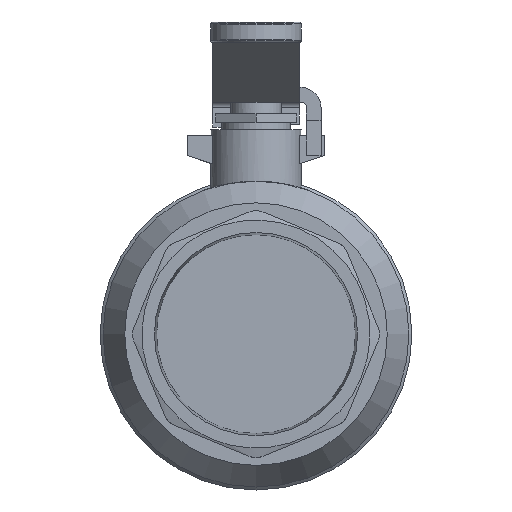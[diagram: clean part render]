
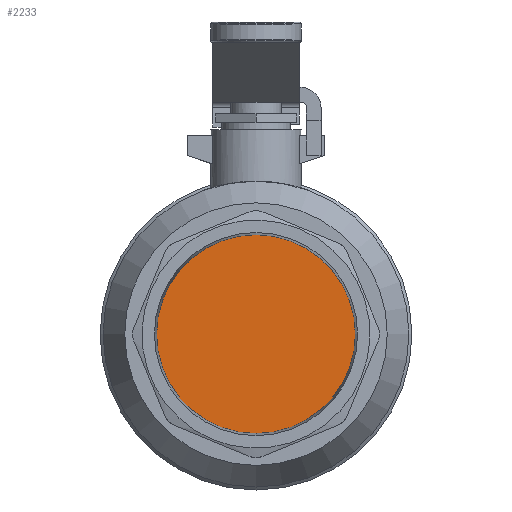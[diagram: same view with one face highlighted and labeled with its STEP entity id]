
A CAD part, left-side view. The second image highlights one B-rep face of the part: STEP entity #2233.
In plain terms, the highlighted free-form (B-spline) face has degree [1, 1] with [2, 2] control points.
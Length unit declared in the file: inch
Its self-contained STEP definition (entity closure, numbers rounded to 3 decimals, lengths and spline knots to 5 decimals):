
#2217=CARTESIAN_POINT('',(0.932,1.35196,1.35196));
#2218=CARTESIAN_POINT('',(0.932,-1.35196,1.35196));
#2219=CARTESIAN_POINT('',(0.932,1.35196,-1.35196));
#2220=CARTESIAN_POINT('',(0.932,-1.35196,-1.35196));
#2221=B_SPLINE_SURFACE_WITH_KNOTS('',1,1,((#2217,#2219),(#2218,#2220)),.UNSPECIFIED.,.F.,.F.,.U.,(2,2),(2,2),(0.0,2.70391),(0.0,2.70391),.UNSPECIFIED.);
#2222=CARTESIAN_POINT('',(0.932,1.35196,0.0));
#2223=VERTEX_POINT('',#2222);
#2224=CARTESIAN_POINT('',(0.932,0.0,0.0));
#2225=DIRECTION('',(1.0,0.0,0.0));
#2226=DIRECTION('',(0.0,1.0,0.0));
#2227=AXIS2_PLACEMENT_3D('',#2224,#2225,#2226);
#2228=CIRCLE('',#2227,1.35196);
#2229=EDGE_CURVE('',#2223,#2223,#2228,.T.);
#2230=ORIENTED_EDGE('',*,*,#2229,.F.);
#2231=EDGE_LOOP('',(#2230));
#2232=FACE_OUTER_BOUND('',#2231,.T.);
#2233=ADVANCED_FACE('',(#2232),#2221,.F.);
